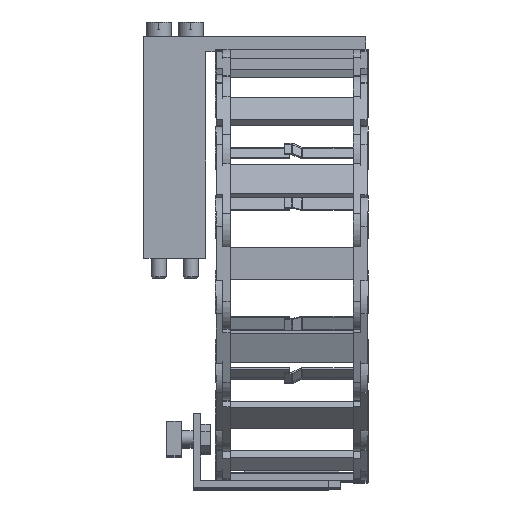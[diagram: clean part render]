
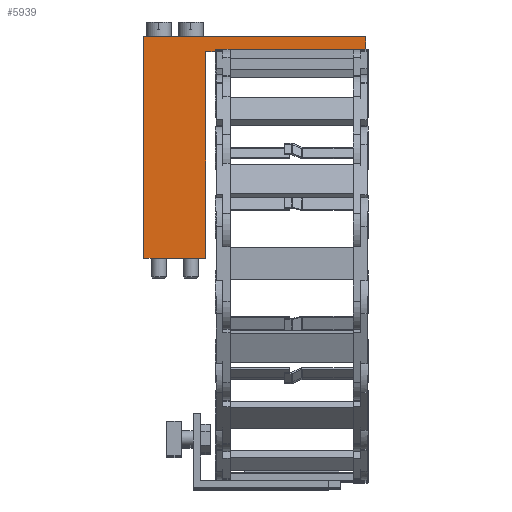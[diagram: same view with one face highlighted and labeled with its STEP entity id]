
A CAD part, top view. The second image highlights one B-rep face of the part: STEP entity #5939.
In plain terms, the highlighted planar face has unit normal (0, 0, 1).
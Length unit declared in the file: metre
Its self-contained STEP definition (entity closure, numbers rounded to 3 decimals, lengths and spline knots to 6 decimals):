
#5939 = ADVANCED_FACE( '', ( #12944 ), #12945, .T. );
#12944 = FACE_OUTER_BOUND( '', #21245, .T. );
#12945 = PLANE( '', #21246 );
#21245 = EDGE_LOOP( '', ( #39004, #39005, #39006, #39007, #39008, #39009, #39010 ) );
#21246 = AXIS2_PLACEMENT_3D( '', #39011, #39012, #39013 );
#39004 = ORIENTED_EDGE( '', *, *, #54493, .F. );
#39005 = ORIENTED_EDGE( '', *, *, #57342, .T. );
#39006 = ORIENTED_EDGE( '', *, *, #57343, .T. );
#39007 = ORIENTED_EDGE( '', *, *, #55419, .T. );
#39008 = ORIENTED_EDGE( '', *, *, #51955, .T. );
#39009 = ORIENTED_EDGE( '', *, *, #57071, .F. );
#39010 = ORIENTED_EDGE( '', *, *, #51196, .F. );
#39011 = CARTESIAN_POINT( '', ( 0.055, 0.184, 0.021 ) );
#39012 = DIRECTION( '', ( 0., 0., 1. ) );
#39013 = DIRECTION( '', ( 1., 0., 0. ) );
#51196 = EDGE_CURVE( '', #62218, #62220, #62221, .T. );
#51955 = EDGE_CURVE( '', #63544, #63545, #63546, .T. );
#54493 = EDGE_CURVE( '', #67728, #62218, #67730, .T. );
#55419 = EDGE_CURVE( '', #69128, #63544, #69129, .T. );
#57071 = EDGE_CURVE( '', #62220, #63545, #71462, .T. );
#57342 = EDGE_CURVE( '', #67728, #71825, #71826, .T. );
#57343 = EDGE_CURVE( '', #71825, #69128, #71827, .T. );
#62218 = VERTEX_POINT( '', #77923 );
#62220 = VERTEX_POINT( '', #77926 );
#62221 = LINE( '', #77927, #77928 );
#63544 = VERTEX_POINT( '', #79753 );
#63545 = VERTEX_POINT( '', #79754 );
#63546 = LINE( '', #79755, #79756 );
#67728 = VERTEX_POINT( '', #85567 );
#67730 = LINE( '', #85570, #85571 );
#69128 = VERTEX_POINT( '', #87531 );
#69129 = LINE( '', #87532, #87533 );
#71462 = LINE( '', #90858, #90859 );
#71825 = VERTEX_POINT( '', #91375 );
#71826 = LINE( '', #91376, #91377 );
#71827 = LINE( '', #91378, #91379 );
#77923 = CARTESIAN_POINT( '', ( 0.009, 0.178, 0.021 ) );
#77926 = CARTESIAN_POINT( '', ( 0.005, 0.178, 0.021 ) );
#77927 = CARTESIAN_POINT( '', ( 0.055, 0.178, 0.021 ) );
#77928 = VECTOR( '', #96903, 1. );
#79753 = CARTESIAN_POINT( '', ( -0.02, 0.094, 0.021 ) );
#79754 = CARTESIAN_POINT( '', ( 0.005, 0.094, 0.021 ) );
#79755 = CARTESIAN_POINT( '', ( -0.02, 0.094, 0.021 ) );
#79756 = VECTOR( '', #97865, 1. );
#85567 = CARTESIAN_POINT( '', ( 0.07, 0.178, 0.021 ) );
#85570 = CARTESIAN_POINT( '', ( 0.055, 0.178, 0.021 ) );
#85571 = VECTOR( '', #100870, 1. );
#87531 = CARTESIAN_POINT( '', ( -0.02, 0.184, 0.021 ) );
#87532 = CARTESIAN_POINT( '', ( -0.02, 0.184, 0.021 ) );
#87533 = VECTOR( '', #101925, 1. );
#90858 = CARTESIAN_POINT( '', ( 0.005, 0.178, 0.021 ) );
#90859 = VECTOR( '', #103770, 1. );
#91375 = CARTESIAN_POINT( '', ( 0.07, 0.184, 0.021 ) );
#91376 = CARTESIAN_POINT( '', ( 0.07, 0.178, 0.021 ) );
#91377 = VECTOR( '', #104041, 1. );
#91378 = CARTESIAN_POINT( '', ( 0.055, 0.184, 0.021 ) );
#91379 = VECTOR( '', #104042, 1. );
#96903 = DIRECTION( '', ( -1., 0., 0. ) );
#97865 = DIRECTION( '', ( 1., 0., 0. ) );
#100870 = DIRECTION( '', ( -1., 0., 0. ) );
#101925 = DIRECTION( '', ( 0., -1., 0. ) );
#103770 = DIRECTION( '', ( 0., -1., 0. ) );
#104041 = DIRECTION( '', ( 0., 1., 0. ) );
#104042 = DIRECTION( '', ( -1., 0., 0. ) );
